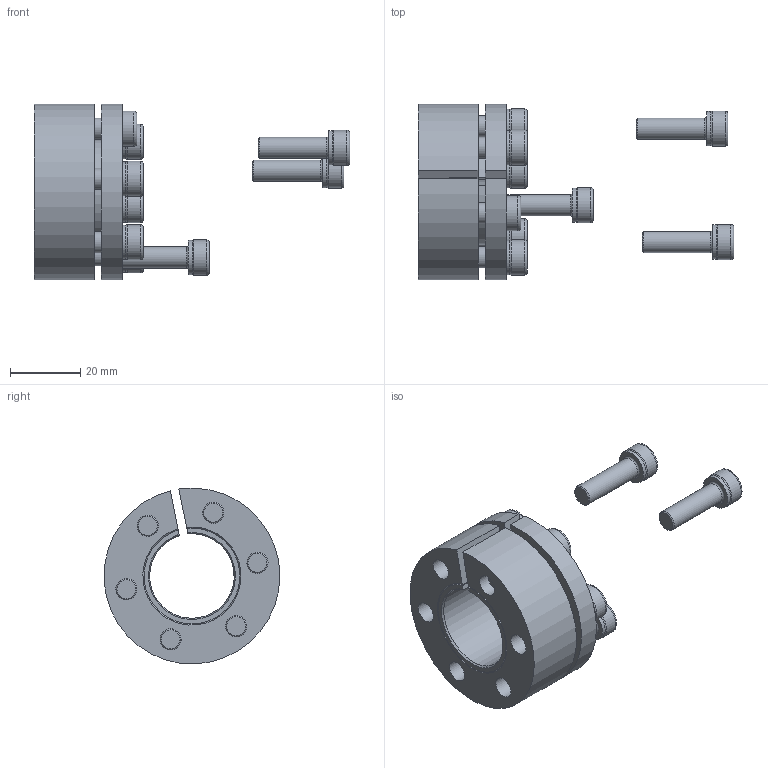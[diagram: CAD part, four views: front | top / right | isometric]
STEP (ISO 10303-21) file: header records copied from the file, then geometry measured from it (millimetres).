
FILE_DESCRIPTION((''),'2;1');
FILE_NAME('M:\Disegni 3D\CALETTATORI\RCK 13\25x50 - 06130030\Assieme.stp','2015-12-16T12:02:02',('fabietto'),(''),'Autodesk Inventor 2013','Autodesk Inventor 2013','');
FILE_SCHEMA(('AUTOMOTIVE_DESIGN { 1 0 10303 214 1 1 1 1 }'));
Length unit declared in the file: millimetre
Products named in the file (5): Assieme; Anello esterno; Parte1; Vite di bloccaggio M6x20 - Brunita; Vite di bloccaggio M6x20 - Zincata
Assembly tree (11 placements, depth 2):
  Assieme
    Anello esterno
    Parte1
    Vite di bloccaggio M6x20 - Brunita  x6
    Vite di bloccaggio M6x20 - Zincata  x3
Bounding box: 89.71 x 49.97 x 49.98 mm (x, y, z)
Volume: 38748.3 mm3; surface area: 23269 mm2
Topology: 11 solids, 11 shells, 296 faces, 633 edges, 377 vertices
Faces by surface type: plane 153, cylinder 101, torus 27, cone 15
Full cylindrical faces by diameter (mm): 6 x18, 7 x6, 9.75 x9, 10 x9
Entity records: 2689 total; most frequent: DIRECTION 462, CARTESIAN_POINT 441, ORIENTED_EDGE 360, AXIS2_PLACEMENT_3D 185, EDGE_CURVE 180, EDGE_LOOP 156, VERTEX_POINT 128, FACE_OUTER_BOUND 93
